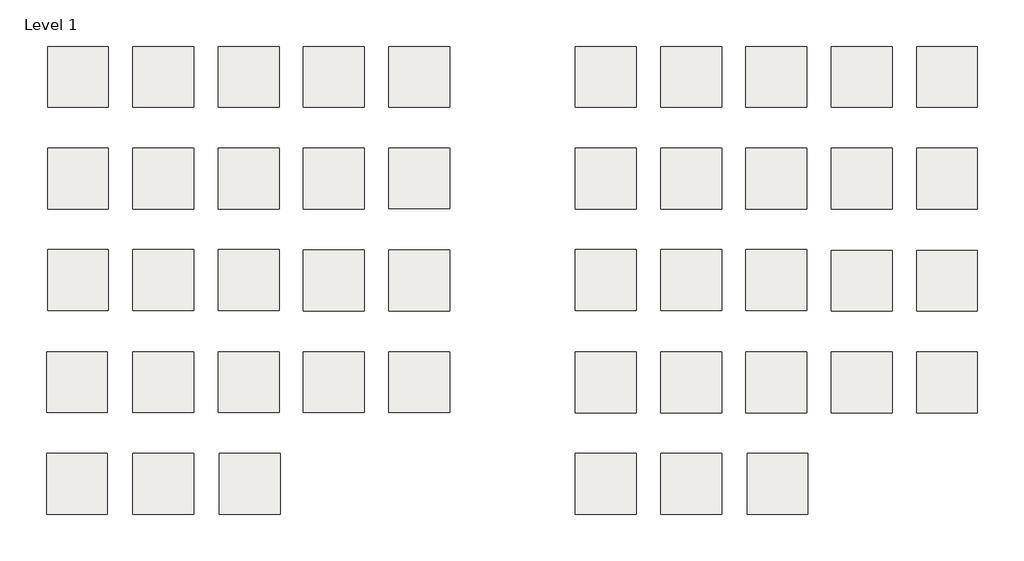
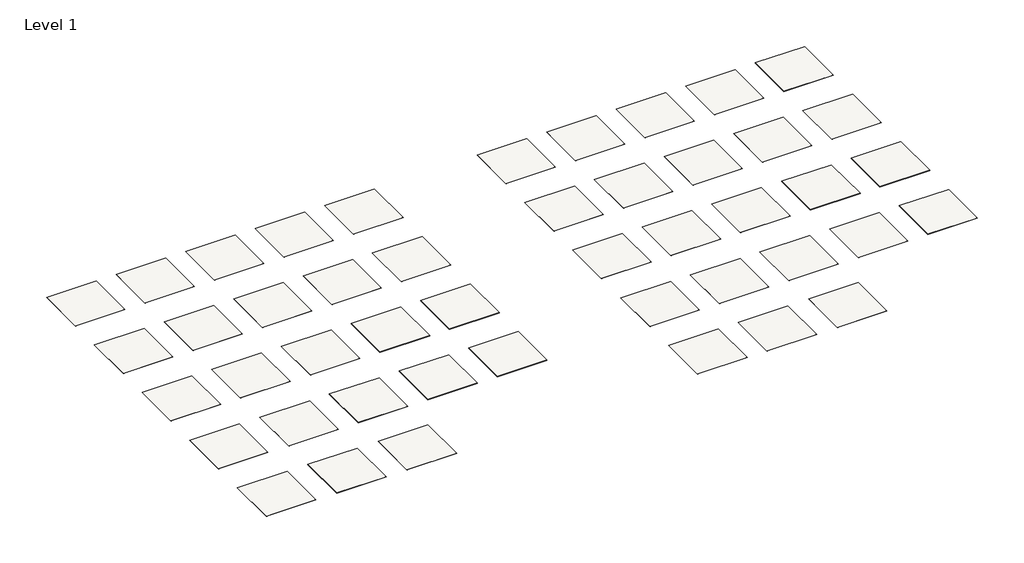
# One storey: 46 slabs.
"""IFC4 building model written with IfcOpenShell, lengths in millimetres."""

import ifcopenshell
import ifcopenshell.guid

model = None  # the IFC model being written
_history = None  # IfcOwnerHistory: only IFC2X3 demands one
_inside = {}  # id of a spatial element -> (the spatial element, [elements in it])
_under = {}  # id of a project, library or spatial element -> (it, [spatial elements below it])
_declared = {}  # id of a project -> (the project, [libraries it declares])
_typed = {}  # id of a type object -> (the type object, [elements of that type])
_made_of = {}  # id of a material, layer set ... -> (it, [elements and type objects made of it])


def new_model(schema):
    """Start an empty IFC model of exactly this schema.

    Asked for "IFC4X3", IfcOpenShell would pick the latest addendum, in which some entities
    have other attributes; the version numbers below select the first issue.
    IFC2X3 requires an IfcOwnerHistory on every rooted entity: one is made here for all.
    """
    global model, _history
    if schema == "IFC4X3":
        model = ifcopenshell.file(schema_version=(4, 3, 0, 0))
    else:
        model = ifcopenshell.file(schema=schema)
    _inside.clear()
    _under.clear()
    _declared.clear()
    _typed.clear()
    _made_of.clear()
    _history = None
    if model.schema == "IFC2X3":
        org = make("IfcOrganization", Name="unknown")
        user = make(
            "IfcPersonAndOrganization",
            ThePerson=make("IfcPerson", FamilyName="unknown"),
            TheOrganization=org,
        )
        app = make(
            "IfcApplication",
            ApplicationDeveloper=org,
            Version="unknown",
            ApplicationFullName="unknown",
            ApplicationIdentifier="unknown",
        )
        _history = make(
            "IfcOwnerHistory",
            OwningUser=user,
            OwningApplication=app,
            ChangeAction="ADDED",
            CreationDate=0,
        )
    return model


def make(cls, **values):
    """One entity of the class cls with the attributes given. An attribute that is None is left unset."""
    return model.create_entity(
        cls, **{name: value for name, value in values.items() if value is not None}
    )


def rooted(cls, **values):
    """An entity with a GlobalId (a new one), such as an element, a storey or a relation."""
    return make(cls, GlobalId=ifcopenshell.guid.new(), OwnerHistory=_history, **values)


def si_unit(unit_type, name, prefix=None):
    """IfcSIUnit, for example si_unit("LENGTHUNIT", "METRE", prefix="MILLI")."""
    return make("IfcSIUnit", UnitType=unit_type, Prefix=prefix, Name=name)


def assignment(units):
    """IfcUnitAssignment: the units of a project."""
    return None if units is None else make("IfcUnitAssignment", Units=units)


def point(xyz):
    """IfcCartesianPoint."""
    return None if xyz is None else make("IfcCartesianPoint", Coordinates=xyz)


def direction(xyz):
    """IfcDirection."""
    return None if xyz is None else make("IfcDirection", DirectionRatios=xyz)


def frame(location, z_axis=None, x_axis=None):
    """IfcAxis2Placement3D, a coordinate frame: its origin and axes. An axis left out is left unset."""
    return make(
        "IfcAxis2Placement3D",
        Location=point(location),
        Axis=direction(z_axis),
        RefDirection=direction(x_axis),
    )


def origin():
    """The frame at (0, 0, 0) with its axes left unset."""
    return frame((0.0, 0.0, 0.0))


def place(relative_to, where):
    """IfcLocalPlacement: puts the frame where relative to a parent placement (None: the world)."""
    return make(
        "IfcLocalPlacement", PlacementRelTo=relative_to, RelativePlacement=where
    )


def context(
    kind, dimensions, precision=None, world=None, true_north=None, identifier=None
):
    """IfcGeometricRepresentationContext, for example the 3D "Model" context."""
    return make(
        "IfcGeometricRepresentationContext",
        ContextIdentifier=identifier,
        ContextType=kind,
        CoordinateSpaceDimension=dimensions,
        Precision=precision,
        WorldCoordinateSystem=world,
        TrueNorth=true_north,
    )


def project(units=None, contexts=None):
    """IfcProject with its units and contexts."""
    return rooted(
        "IfcProject",
        Name="project",
        RepresentationContexts=contexts,
        UnitsInContext=assignment(units),
    )


def spatial(cls, under=None, at=None, **own):
    """A site, building, storey or space (cls), placed at a placement, below another one or the project."""
    s = rooted(cls, ObjectPlacement=at, **own)
    if under is not None:
        _under.setdefault(under.id(), (under, []))[1].append(s)
    return s


def polyline(points):
    """IfcPolyline through the points."""
    return make("IfcPolyline", Points=[point(p) for p in points])


def outline(outer, holes=None, kind="AREA"):
    """IfcArbitraryClosedProfileDef: a profile drawn as a closed curve; with holes, ...WithVoids."""
    if holes is None:
        return make("IfcArbitraryClosedProfileDef", ProfileType=kind, OuterCurve=outer)
    return make(
        "IfcArbitraryProfileDefWithVoids",
        ProfileType=kind,
        OuterCurve=outer,
        InnerCurves=holes,
    )


def extrude(swept, where, along, depth):
    """IfcExtrudedAreaSolid: the profile swept, set in the frame where, extruded along a direction by depth."""
    return make(
        "IfcExtrudedAreaSolid",
        SweptArea=swept,
        Position=where,
        ExtrudedDirection=direction(along),
        Depth=depth,
    )


def shape(context_of_items, identifier, shape_type, items):
    """IfcShapeRepresentation: the items that make up one representation, for example the "Body"."""
    return make(
        "IfcShapeRepresentation",
        ContextOfItems=context_of_items,
        RepresentationIdentifier=identifier,
        RepresentationType=shape_type,
        Items=items,
    )


def made_of(thing, what):
    """Note that an element or type object is made of a material, layer set ...; save() writes the relation."""
    if what is not None:
        _made_of.setdefault(what.id(), (what, []))[1].append(thing)
    return thing


def element(
    cls,
    number,
    at=None,
    inside=None,
    cuts=None,
    type_object=None,
    material=None,
    context=None,
    identifier="Body",
    shape_type=None,
    held_by="IfcProductDefinitionShape",
    body=None,
    shapes=None,
    **own,
):
    """One element of the class cls, such as IfcWall. Its Tag is "e" and its number.

    at: its placement. inside: the storey or other place that contains it. cuts: it is an
    opening in that element (IfcRelVoidsElement). A single representation is given by context,
    identifier, shape_type and body (its items); several are given by shapes. held_by: the class
    of the entity that holds the representations. save() writes the other relations.
    """
    e = rooted(cls, Tag="e%d" % number, ObjectPlacement=at, **own)
    if body is not None:
        shapes = [shape(context, identifier, shape_type, body)]
    if shapes is not None:
        e.Representation = make(held_by, Representations=shapes)
    if inside is not None:
        _inside.setdefault(inside.id(), (inside, []))[1].append(e)
    if cuts is not None:
        rooted(
            "IfcRelVoidsElement", RelatingBuildingElement=cuts, RelatedOpeningElement=e
        )
    if type_object is not None:
        _typed.setdefault(type_object.id(), (type_object, []))[1].append(e)
    return made_of(e, material)


def aggregate(whole, parts):
    """IfcRelAggregates: a whole, such as a stair, and the parts it consists of."""
    return rooted("IfcRelAggregates", RelatingObject=whole, RelatedObjects=parts)


def save(model, path):
    """Write the relations noted so far, then the file.

    IfcRelAggregates (storeys below a building ...), IfcRelContainedInSpatialStructure (elements
    in a storey), IfcRelDefinesByType, IfcRelAssociatesMaterial and IfcRelDeclares: one each for
    every whole, place, type object, material and project.
    """
    for whole, parts in _under.values():
        aggregate(whole, parts)
    for where, things in _inside.values():
        rooted(
            "IfcRelContainedInSpatialStructure",
            RelatedElements=things,
            RelatingStructure=where,
        )
    for kind, things in _typed.values():
        rooted("IfcRelDefinesByType", RelatedObjects=things, RelatingType=kind)
    for what, things in _made_of.values():
        rooted("IfcRelAssociatesMaterial", RelatedObjects=things, RelatingMaterial=what)
    for by, libraries in _declared.values():
        rooted("IfcRelDeclares", RelatingContext=by, RelatedDefinitions=libraries)
    model.write(path)


model = new_model("IFC4")

# Units and contexts
model_context = context("Model", 3, world=origin())
ifc_project = project(units=[si_unit("LENGTHUNIT", "METRE", prefix="MILLI")], contexts=[model_context])

# Site, building, storey
site = spatial("IfcSite", under=ifc_project)
building = spatial("IfcBuilding", under=site)
storey = spatial("IfcBuildingStorey", under=building, Name="Level 1", Elevation=0.0)

# Slabs
placement = place(None, origin())
element("IfcSlab", 1, ObjectType="Armstrong_VCT_Striations_Z3601 atmosphere", at=placement, inside=storey, context=model_context, shape_type="SweptSolid", body=[
    extrude(outline(polyline([(966.9464369, 2884.7695431), (966.9464369, 1360.7695431), (-557.0535631, 1360.7695431), (-557.0535631, 2884.7695431), (966.9464369, 2884.7695431)])), frame((0.0, 0.0, -3.175), z_axis=(0.0, 0.0, 1.0), x_axis=(1.0, 0.0, 0.0)), (0.0, 0.0, 1.0), 3.175),
])
element("IfcSlab", 2, ObjectType="Armstrong_VCT_Striations_Z3602 steel", at=placement, inside=storey, context=model_context, shape_type="SweptSolid", body=[
    extrude(outline(polyline([(3100.5464369, 2884.7695431), (3100.5464369, 1360.7695431), (1576.5464369, 1360.7695431), (1576.5464369, 2884.7695431), (3100.5464369, 2884.7695431)])), frame((0.0, 0.0, -3.175), z_axis=(0.0, 0.0, 1.0), x_axis=(1.0, 0.0, 0.0)), (0.0, 0.0, 1.0), 3.175),
])
element("IfcSlab", 3, ObjectType="Armstrong_VCT_Striations_Z3603 twilight", at=placement, inside=storey, context=model_context, shape_type="SweptSolid", body=[
    extrude(outline(polyline([(5234.1464369, 2884.7695431), (5234.1464369, 1360.7695431), (3710.1464369, 1360.7695431), (3710.1464369, 2884.7695431), (5234.1464369, 2884.7695431)])), frame((0.0, 0.0, -3.175), z_axis=(0.0, 0.0, 1.0), x_axis=(1.0, 0.0, 0.0)), (0.0, 0.0, 1.0), 3.175),
])
element("IfcSlab", 4, ObjectType="Armstrong_VCT_Striations_Z3604 midnight", at=placement, inside=storey, context=model_context, shape_type="SweptSolid", body=[
    extrude(outline(polyline([(7367.7464369, 2884.7695431), (7367.7464369, 1360.7695431), (5843.7464369, 1360.7695431), (5843.7464369, 2884.7695431), (7367.7464369, 2884.7695431)])), frame((0.0, 0.0, -3.175), z_axis=(0.0, 0.0, 1.0), x_axis=(1.0, 0.0, 0.0)), (0.0, 0.0, 1.0), 3.175),
])
element("IfcSlab", 5, ObjectType="Armstrong_VCT_Striations_Z3608 warm gray", at=placement, inside=storey, context=model_context, shape_type="SweptSolid", body=[
    extrude(outline(polyline([(9501.3464369, 2884.7695431), (9501.3464369, 1360.7695431), (7977.3464369, 1360.7695431), (7977.3464369, 2884.7695431), (9501.3464369, 2884.7695431)])), frame((0.0, 0.0, -3.175), z_axis=(0.0, 0.0, 1.0), x_axis=(1.0, 0.0, 0.0)), (0.0, 0.0, 1.0), 3.175),
])
element("IfcSlab", 6, ObjectType="Armstrong_VCT_Striations_Z3609 malted milk", at=placement, inside=storey, context=model_context, shape_type="SweptSolid", body=[
    extrude(outline(polyline([(966.9379159, 337.5688454), (966.9379159, -1186.4311546), (-557.0620841, -1186.4311546), (-557.0620841, 337.5688454), (966.9379159, 337.5688454)])), frame((0.0, 0.0, -3.175), z_axis=(0.0, 0.0, 1.0), x_axis=(1.0, 0.0, 0.0)), (0.0, 0.0, 1.0), 3.175),
])
element("IfcSlab", 7, ObjectType="Armstrong_VCT_Striations_Z3610 haze", at=placement, inside=storey, context=model_context, shape_type="SweptSolid", body=[
    extrude(outline(polyline([(3100.6747683, 337.733113), (3100.6747683, -1186.266887), (1576.6747683, -1186.266887), (1576.6747683, 337.733113), (3100.6747683, 337.733113)])), frame((0.0, 0.0, -3.175), z_axis=(0.0, 0.0, 1.0), x_axis=(1.0, 0.0, 0.0)), (0.0, 0.0, 1.0), 3.175),
])
element("IfcSlab", 8, ObjectType="Armstrong_VCT_Striations_Z3611 mushroom", at=placement, inside=storey, context=model_context, shape_type="SweptSolid", body=[
    extrude(outline(polyline([(5234.2747683, 337.733113), (5234.2747683, -1186.266887), (3710.2747683, -1186.266887), (3710.2747683, 337.733113), (5234.2747683, 337.733113)])), frame((0.0, 0.0, -3.175), z_axis=(0.0, 0.0, 1.0), x_axis=(1.0, 0.0, 0.0)), (0.0, 0.0, 1.0), 3.175),
])
element("IfcSlab", 9, ObjectType="Armstrong_VCT_Striations_Z3614 bisque", at=placement, inside=storey, context=model_context, shape_type="SweptSolid", body=[
    extrude(outline(polyline([(7367.8747683, 337.733113), (7367.8747683, -1186.266887), (5843.8747683, -1186.266887), (5843.8747683, 337.733113), (7367.8747683, 337.733113)])), frame((0.0, 0.0, -3.175), z_axis=(0.0, 0.0, 1.0), x_axis=(1.0, 0.0, 0.0)), (0.0, 0.0, 1.0), 3.175),
])
element("IfcSlab", 10, ObjectType="Armstrong_VCT_Striations_Z3615 honey", at=placement, inside=storey, context=model_context, shape_type="SweptSolid", body=[
    extrude(outline(polyline([(9501.4747683, 344.083113), (9501.4747683, -1179.916887), (7977.4747683, -1179.916887), (7977.4747683, 344.083113), (9501.4747683, 344.083113)])), frame((0.0, 0.0, -3.175), z_axis=(0.0, 0.0, 1.0), x_axis=(1.0, 0.0, 0.0)), (0.0, 0.0, 1.0), 3.175),
])
element("IfcSlab", 11, ObjectType="Armstrong_VCT_Striations_Z3616 tea time", at=placement, inside=storey, context=model_context, shape_type="SweptSolid", body=[
    extrude(outline(polyline([(966.6382046, -2204.0201905), (966.6382046, -3728.0201905), (-557.3617954, -3728.0201905), (-557.3617954, -2204.0201905), (966.6382046, -2204.0201905)])), frame((0.0, 0.0, -3.175), z_axis=(0.0, 0.0, 1.0), x_axis=(1.0, 0.0, 0.0)), (0.0, 0.0, 1.0), 3.175),
])
element("IfcSlab", 12, ObjectType="Armstrong_VCT_Striations_Z3618 banner blue", at=placement, inside=storey, context=model_context, shape_type="SweptSolid", body=[
    extrude(outline(polyline([(3100.2382046, -2204.0201905), (3100.2382046, -3728.0201905), (1576.2382046, -3728.0201905), (1576.2382046, -2204.0201905), (3100.2382046, -2204.0201905)])), frame((0.0, 0.0, -3.175), z_axis=(0.0, 0.0, 1.0), x_axis=(1.0, 0.0, 0.0)), (0.0, 0.0, 1.0), 3.175),
])
element("IfcSlab", 13, ObjectType="Armstrong_VCT_Striations_Z3619 mocha", at=placement, inside=storey, context=model_context, shape_type="SweptSolid", body=[
    extrude(outline(polyline([(5233.8382046, -2204.0201905), (5233.8382046, -3728.0201905), (3709.8382046, -3728.0201905), (3709.8382046, -2204.0201905), (5233.8382046, -2204.0201905)])), frame((0.0, 0.0, -3.175), z_axis=(0.0, 0.0, 1.0), x_axis=(1.0, 0.0, 0.0)), (0.0, 0.0, 1.0), 3.175),
])
element("IfcSlab", 14, ObjectType="Armstrong_VCT_Striations_Z3621 emerald city", at=placement, inside=storey, context=model_context, shape_type="SweptSolid", body=[
    extrude(outline(polyline([(7368.2766087, -2217.4357805), (7368.2766087, -3741.4357805), (5844.2766087, -3741.4357805), (5844.2766087, -2217.4357805), (7368.2766087, -2217.4357805)])), frame((0.0, 0.0, -3.175), z_axis=(0.0, 0.0, 1.0), x_axis=(1.0, 0.0, 0.0)), (0.0, 0.0, 1.0), 3.175),
])
element("IfcSlab", 15, ObjectType="Armstrong_VCT_Striations_Z3622 sunflower", at=placement, inside=storey, context=model_context, shape_type="SweptSolid", body=[
    extrude(outline(polyline([(9501.8766087, -2217.4357805), (9501.8766087, -3741.4357805), (7977.8766087, -3741.4357805), (7977.8766087, -2217.4357805), (9501.8766087, -2217.4357805)])), frame((0.0, 0.0, -3.175), z_axis=(0.0, 0.0, 1.0), x_axis=(1.0, 0.0, 0.0)), (0.0, 0.0, 1.0), 3.175),
])
element("IfcSlab", 16, ObjectType="Armstrong_VCT_Striations_Z3623 green leaf", at=placement, inside=storey, context=model_context, shape_type="SweptSolid", body=[
    extrude(outline(polyline([(940.8016408, -4759.1890839), (940.8016408, -6283.1890839), (-583.1983592, -6283.1890839), (-583.1983592, -4759.1890839), (940.8016408, -4759.1890839)])), frame((0.0, 0.0, -3.175), z_axis=(0.0, 0.0, 1.0), x_axis=(1.0, 0.0, 0.0)), (0.0, 0.0, 1.0), 3.175),
])
element("IfcSlab", 17, ObjectType="Armstrong_VCT_Striations_Z3624 merlot", at=placement, inside=storey, context=model_context, shape_type="SweptSolid", body=[
    extrude(outline(polyline([(3099.8016408, -4759.1890839), (3099.8016408, -6283.1890839), (1575.8016408, -6283.1890839), (1575.8016408, -4759.1890839), (3099.8016408, -4759.1890839)])), frame((0.0, 0.0, -3.175), z_axis=(0.0, 0.0, 1.0), x_axis=(1.0, 0.0, 0.0)), (0.0, 0.0, 1.0), 3.175),
])
element("IfcSlab", 18, ObjectType="Armstrong_VCT_Striations_Z3625 espresso", at=placement, inside=storey, context=model_context, shape_type="SweptSolid", body=[
    extrude(outline(polyline([(5233.4016408, -4759.1890839), (5233.4016408, -6283.1890839), (3709.4016408, -6283.1890839), (3709.4016408, -4759.1890839), (5233.4016408, -4759.1890839)])), frame((0.0, 0.0, -3.175), z_axis=(0.0, 0.0, 1.0), x_axis=(1.0, 0.0, 0.0)), (0.0, 0.0, 1.0), 3.175),
])
element("IfcSlab", 19, ObjectType="Armstrong_VCT_Striations_Z3626 rust", at=placement, inside=storey, context=model_context, shape_type="SweptSolid", body=[
    extrude(outline(polyline([(7368.6784492, -4759.1890839), (7368.6784492, -6283.1890839), (5844.6784492, -6283.1890839), (5844.6784492, -4759.1890839), (7368.6784492, -4759.1890839)])), frame((0.0, 0.0, -3.175), z_axis=(0.0, 0.0, 1.0), x_axis=(1.0, 0.0, 0.0)), (0.0, 0.0, 1.0), 3.175),
])
element("IfcSlab", 20, ObjectType="Armstrong_VCT_Striations_Z3627 dark night", at=placement, inside=storey, context=model_context, shape_type="SweptSolid", body=[
    extrude(outline(polyline([(9502.2784492, -4759.1890839), (9502.2784492, -6283.1890839), (7978.2784492, -6283.1890839), (7978.2784492, -4759.1890839), (9502.2784492, -4759.1890839)])), frame((0.0, 0.0, -3.175), z_axis=(0.0, 0.0, 1.0), x_axis=(1.0, 0.0, 0.0)), (0.0, 0.0, 1.0), 3.175),
])
element("IfcSlab", 21, ObjectType="Armstrong_VCT_Striations_Z3628 iceberg", at=placement, inside=storey, context=model_context, shape_type="SweptSolid", body=[
    extrude(outline(polyline([(941.2034813, -7300.9423874), (941.2034813, -8824.9423874), (-582.7965187, -8824.9423874), (-582.7965187, -7300.9423874), (941.2034813, -7300.9423874)])), frame((0.0, 0.0, -3.175), z_axis=(0.0, 0.0, 1.0), x_axis=(1.0, 0.0, 0.0)), (0.0, 0.0, 1.0), 3.175),
])
element("IfcSlab", 22, ObjectType="Armstrong_VCT_Striations_Z3631 jet stream", at=placement, inside=storey, context=model_context, shape_type="SweptSolid", body=[
    extrude(outline(polyline([(3103.3784813, -7300.9423874), (3103.3784813, -8824.9423874), (1579.3784813, -8824.9423874), (1579.3784813, -7300.9423874), (3103.3784813, -7300.9423874)])), frame((0.0, 0.0, -3.175), z_axis=(0.0, 0.0, 1.0), x_axis=(1.0, 0.0, 0.0)), (0.0, 0.0, 1.0), 3.175),
])
element("IfcSlab", 23, ObjectType="Armstrong_VCT_Striations_Z3632 caribbean sea", at=placement, inside=storey, context=model_context, shape_type="SweptSolid", body=[
    extrude(outline(polyline([(5259.3278502, -7306.3866075), (5259.3278502, -8830.3866075), (3735.3278502, -8830.3866075), (3735.3278502, -7306.3866075), (5259.3278502, -7306.3866075)])), frame((0.0, 0.0, -3.175), z_axis=(0.0, 0.0, 1.0), x_axis=(1.0, 0.0, 0.0)), (0.0, 0.0, 1.0), 3.175),
])
element("IfcSlab", 24, ObjectType="Armstrong_VCT_Striations_Z3601 atmosphere (staggered)", at=placement, inside=storey, context=model_context, shape_type="SweptSolid", body=[
    extrude(outline(polyline([(14174.9464369, 2884.7695431), (14174.9464369, 1360.7695431), (12650.9464369, 1360.7695431), (12650.9464369, 2884.7695431), (14174.9464369, 2884.7695431)])), frame((0.0, 0.0, -3.175), z_axis=(0.0, 0.0, 1.0), x_axis=(1.0, 0.0, 0.0)), (0.0, 0.0, 1.0), 3.175),
])
element("IfcSlab", 25, ObjectType="Armstrong_VCT_Striations_Z3602 steel (staggered)", at=placement, inside=storey, context=model_context, shape_type="SweptSolid", body=[
    extrude(outline(polyline([(16308.5464369, 2884.7695431), (16308.5464369, 1360.7695431), (14784.5464369, 1360.7695431), (14784.5464369, 2884.7695431), (16308.5464369, 2884.7695431)])), frame((0.0, 0.0, -3.175), z_axis=(0.0, 0.0, 1.0), x_axis=(1.0, 0.0, 0.0)), (0.0, 0.0, 1.0), 3.175),
])
element("IfcSlab", 26, ObjectType="Armstrong_VCT_Striations_Z3603 twilight (staggered)", at=placement, inside=storey, context=model_context, shape_type="SweptSolid", body=[
    extrude(outline(polyline([(18442.1464369, 2884.7695431), (18442.1464369, 1360.7695431), (16918.1464369, 1360.7695431), (16918.1464369, 2884.7695431), (18442.1464369, 2884.7695431)])), frame((0.0, 0.0, -3.175), z_axis=(0.0, 0.0, 1.0), x_axis=(1.0, 0.0, 0.0)), (0.0, 0.0, 1.0), 3.175),
])
element("IfcSlab", 27, ObjectType="Armstrong_VCT_Striations_Z3604 midnight (staggered)", at=placement, inside=storey, context=model_context, shape_type="SweptSolid", body=[
    extrude(outline(polyline([(20575.7464369, 2884.7695431), (20575.7464369, 1360.7695431), (19051.7464369, 1360.7695431), (19051.7464369, 2884.7695431), (20575.7464369, 2884.7695431)])), frame((0.0, 0.0, -3.175), z_axis=(0.0, 0.0, 1.0), x_axis=(1.0, 0.0, 0.0)), (0.0, 0.0, 1.0), 3.175),
])
element("IfcSlab", 28, ObjectType="Armstrong_VCT_Striations_Z3608 warm gray (staggered)", at=placement, inside=storey, context=model_context, shape_type="SweptSolid", body=[
    extrude(outline(polyline([(22709.3464369, 2884.7695431), (22709.3464369, 1360.7695431), (21185.3464369, 1360.7695431), (21185.3464369, 2884.7695431), (22709.3464369, 2884.7695431)])), frame((0.0, 0.0, -3.175), z_axis=(0.0, 0.0, 1.0), x_axis=(1.0, 0.0, 0.0)), (0.0, 0.0, 1.0), 3.175),
])
element("IfcSlab", 29, ObjectType="Armstrong_VCT_Striations_Z3609 malted milk (staggered)", at=placement, inside=storey, context=model_context, shape_type="SweptSolid", body=[
    extrude(outline(polyline([(14174.5098732, 336.6662397), (14174.5098732, -1187.3337603), (12650.5098732, -1187.3337603), (12650.5098732, 336.6662397), (14174.5098732, 336.6662397)])), frame((0.0, 0.0, -3.175), z_axis=(0.0, 0.0, 1.0), x_axis=(1.0, 0.0, 0.0)), (0.0, 0.0, 1.0), 3.175),
])
element("IfcSlab", 30, ObjectType="Armstrong_VCT_Striations_Z3610 haze (staggered)", at=placement, inside=storey, context=model_context, shape_type="SweptSolid", body=[
    extrude(outline(polyline([(16308.1098732, 336.6662397), (16308.1098732, -1187.3337603), (14784.1098732, -1187.3337603), (14784.1098732, 336.6662397), (16308.1098732, 336.6662397)])), frame((0.0, 0.0, -3.175), z_axis=(0.0, 0.0, 1.0), x_axis=(1.0, 0.0, 0.0)), (0.0, 0.0, 1.0), 3.175),
])
element("IfcSlab", 31, ObjectType="Armstrong_VCT_Striations_Z3611 mushroom (staggered)", at=placement, inside=storey, context=model_context, shape_type="SweptSolid", body=[
    extrude(outline(polyline([(18441.7098732, 336.6662397), (18441.7098732, -1187.3337603), (16917.7098732, -1187.3337603), (16917.7098732, 336.6662397), (18441.7098732, 336.6662397)])), frame((0.0, 0.0, -3.175), z_axis=(0.0, 0.0, 1.0), x_axis=(1.0, 0.0, 0.0)), (0.0, 0.0, 1.0), 3.175),
])
element("IfcSlab", 32, ObjectType="Armstrong_VCT_Striations_Z3614 bisque (staggered)", at=placement, inside=storey, context=model_context, shape_type="SweptSolid", body=[
    extrude(outline(polyline([(20575.3098732, 336.6662397), (20575.3098732, -1187.3337603), (19051.3098732, -1187.3337603), (19051.3098732, 336.6662397), (20575.3098732, 336.6662397)])), frame((0.0, 0.0, -3.175), z_axis=(0.0, 0.0, 1.0), x_axis=(1.0, 0.0, 0.0)), (0.0, 0.0, 1.0), 3.175),
])
element("IfcSlab", 33, ObjectType="Armstrong_VCT_Striations_Z3615 honey (staggered)", at=placement, inside=storey, context=model_context, shape_type="SweptSolid", body=[
    extrude(outline(polyline([(22708.9098732, 343.0162397), (22708.9098732, -1180.9837603), (21184.9098732, -1180.9837603), (21184.9098732, 343.0162397), (22708.9098732, 343.0162397)])), frame((0.0, 0.0, -3.175), z_axis=(0.0, 0.0, 1.0), x_axis=(1.0, 0.0, 0.0)), (0.0, 0.0, 1.0), 3.175),
])
element("IfcSlab", 34, ObjectType="Armstrong_VCT_Striations_Z3616 tea time (staggered)", at=placement, inside=storey, context=model_context, shape_type="SweptSolid", body=[
    extrude(outline(polyline([(14174.0733094, -2205.0870638), (14174.0733094, -3729.0870638), (12650.0733094, -3729.0870638), (12650.0733094, -2205.0870638), (14174.0733094, -2205.0870638)])), frame((0.0, 0.0, -3.175), z_axis=(0.0, 0.0, 1.0), x_axis=(1.0, 0.0, 0.0)), (0.0, 0.0, 1.0), 3.175),
])
element("IfcSlab", 35, ObjectType="Armstrong_VCT_Striations_Z3618 banner blue (staggered)", at=placement, inside=storey, context=model_context, shape_type="SweptSolid", body=[
    extrude(outline(polyline([(16307.6733094, -2205.0870638), (16307.6733094, -3729.0870638), (14783.6733094, -3729.0870638), (14783.6733094, -2205.0870638), (16307.6733094, -2205.0870638)])), frame((0.0, 0.0, -3.175), z_axis=(0.0, 0.0, 1.0), x_axis=(1.0, 0.0, 0.0)), (0.0, 0.0, 1.0), 3.175),
])
element("IfcSlab", 36, ObjectType="Armstrong_VCT_Striations_Z3619 mocha (staggered)", at=placement, inside=storey, context=model_context, shape_type="SweptSolid", body=[
    extrude(outline(polyline([(18441.2733094, -2205.0870638), (18441.2733094, -3729.0870638), (16917.2733094, -3729.0870638), (16917.2733094, -2205.0870638), (18441.2733094, -2205.0870638)])), frame((0.0, 0.0, -3.175), z_axis=(0.0, 0.0, 1.0), x_axis=(1.0, 0.0, 0.0)), (0.0, 0.0, 1.0), 3.175),
])
element("IfcSlab", 37, ObjectType="Armstrong_VCT_Striations_Z3621 emerald city (staggered)", at=placement, inside=storey, context=model_context, shape_type="SweptSolid", body=[
    extrude(outline(polyline([(20575.9343895, -2220.8297799), (20575.9343895, -3744.8297799), (19051.9343895, -3744.8297799), (19051.9343895, -2220.8297799), (20575.9343895, -2220.8297799)])), frame((0.0, 0.0, -3.175), z_axis=(0.0, 0.0, 1.0), x_axis=(1.0, 0.0, 0.0)), (0.0, 0.0, 1.0), 3.175),
])
element("IfcSlab", 38, ObjectType="Armstrong_VCT_Striations_Z3622 sunflower (staggered)", at=placement, inside=storey, context=model_context, shape_type="SweptSolid", body=[
    extrude(outline(polyline([(22709.5343895, -2220.8297799), (22709.5343895, -3744.8297799), (21185.5343895, -3744.8297799), (21185.5343895, -2220.8297799), (22709.5343895, -2220.8297799)])), frame((0.0, 0.0, -3.175), z_axis=(0.0, 0.0, 1.0), x_axis=(1.0, 0.0, 0.0)), (0.0, 0.0, 1.0), 3.175),
])
element("IfcSlab", 39, ObjectType="Armstrong_VCT_Striations_Z3623 green leaf (staggered)", at=placement, inside=storey, context=model_context, shape_type="SweptSolid", body=[
    extrude(outline(polyline([(14173.8594216, -4762.5830834), (14173.8594216, -6286.5830834), (12649.8594216, -6286.5830834), (12649.8594216, -4762.5830834), (14173.8594216, -4762.5830834)])), frame((0.0, 0.0, -3.175), z_axis=(0.0, 0.0, 1.0), x_axis=(1.0, 0.0, 0.0)), (0.0, 0.0, 1.0), 3.175),
])
element("IfcSlab", 40, ObjectType="Armstrong_VCT_Striations_Z3624 merlot (staggered)", at=placement, inside=storey, context=model_context, shape_type="SweptSolid", body=[
    extrude(outline(polyline([(16307.4594216, -4762.5830834), (16307.4594216, -6286.5830834), (14783.4594216, -6286.5830834), (14783.4594216, -4762.5830834), (16307.4594216, -4762.5830834)])), frame((0.0, 0.0, -3.175), z_axis=(0.0, 0.0, 1.0), x_axis=(1.0, 0.0, 0.0)), (0.0, 0.0, 1.0), 3.175),
])
element("IfcSlab", 41, ObjectType="Armstrong_VCT_Striations_Z3625 espresso (staggered)", at=placement, inside=storey, context=model_context, shape_type="SweptSolid", body=[
    extrude(outline(polyline([(18441.0594216, -4762.5830834), (18441.0594216, -6286.5830834), (16917.0594216, -6286.5830834), (16917.0594216, -4762.5830834), (18441.0594216, -4762.5830834)])), frame((0.0, 0.0, -3.175), z_axis=(0.0, 0.0, 1.0), x_axis=(1.0, 0.0, 0.0)), (0.0, 0.0, 1.0), 3.175),
])
element("IfcSlab", 42, ObjectType="Armstrong_VCT_Striations_Z3626 rust (staggered)", at=placement, inside=storey, context=model_context, shape_type="SweptSolid", body=[
    extrude(outline(polyline([(20576.2884109, -4765.1934954), (20576.2884109, -6289.1934954), (19052.2884109, -6289.1934954), (19052.2884109, -4765.1934954), (20576.2884109, -4765.1934954)])), frame((0.0, 0.0, -3.175), z_axis=(0.0, 0.0, 1.0), x_axis=(1.0, 0.0, 0.0)), (0.0, 0.0, 1.0), 3.175),
])
element("IfcSlab", 43, ObjectType="Armstrong_VCT_Striations_Z3627 dark night (staggered)", at=placement, inside=storey, context=model_context, shape_type="SweptSolid", body=[
    extrude(outline(polyline([(22709.8884109, -4765.1934954), (22709.8884109, -6289.1934954), (21185.8884109, -6289.1934954), (21185.8884109, -4765.1934954), (22709.8884109, -4765.1934954)])), frame((0.0, 0.0, -3.175), z_axis=(0.0, 0.0, 1.0), x_axis=(1.0, 0.0, 0.0)), (0.0, 0.0, 1.0), 3.175),
])
element("IfcSlab", 44, ObjectType="Armstrong_VCT_Striations_Z3628 iceberg (staggered)", at=placement, inside=storey, context=model_context, shape_type="SweptSolid", body=[
    extrude(outline(polyline([(14174.213443, -7306.9467989), (14174.213443, -8830.9467989), (12650.213443, -8830.9467989), (12650.213443, -7306.9467989), (14174.213443, -7306.9467989)])), frame((0.0, 0.0, -3.175), z_axis=(0.0, 0.0, 1.0), x_axis=(1.0, 0.0, 0.0)), (0.0, 0.0, 1.0), 3.175),
])
element("IfcSlab", 45, ObjectType="Armstrong_VCT_Striations_Z3631 jet stream (staggered)", at=placement, inside=storey, context=model_context, shape_type="SweptSolid", body=[
    extrude(outline(polyline([(16307.813443, -7306.9467989), (16307.813443, -8830.9467989), (14783.813443, -8830.9467989), (14783.813443, -7306.9467989), (16307.813443, -7306.9467989)])), frame((0.0, 0.0, -3.175), z_axis=(0.0, 0.0, 1.0), x_axis=(1.0, 0.0, 0.0)), (0.0, 0.0, 1.0), 3.175),
])
element("IfcSlab", 46, ObjectType="Armstrong_VCT_Striations_Z3632 caribbean sea (staggered)", at=placement, inside=storey, context=model_context, shape_type="SweptSolid", body=[
    extrude(outline(polyline([(18469.1022198, -7303.207211), (18469.1022198, -8827.207211), (16945.1022198, -8827.207211), (16945.1022198, -7303.207211), (18469.1022198, -7303.207211)])), frame((0.0, 0.0, -3.175), z_axis=(0.0, 0.0, 1.0), x_axis=(1.0, 0.0, 0.0)), (0.0, 0.0, 1.0), 3.175),
])

save(model, "model.ifc")
